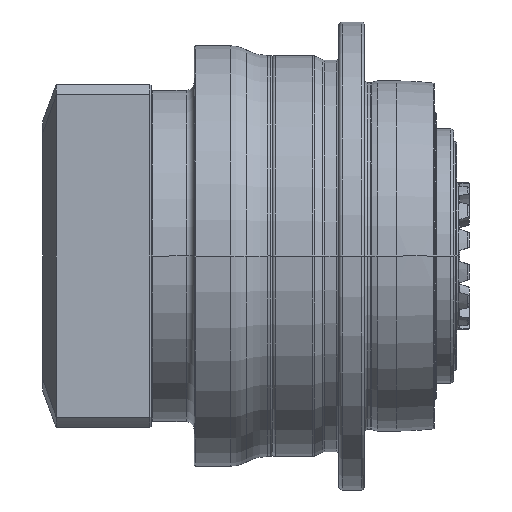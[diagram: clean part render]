
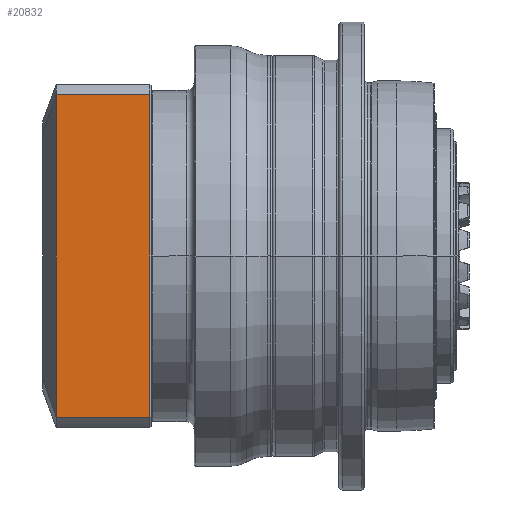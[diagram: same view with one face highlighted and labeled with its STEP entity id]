
A CAD part, front view. The second image highlights one B-rep face of the part: STEP entity #20832.
In plain terms, the highlighted planar face has unit normal (0, -1, 0) as drawn and (0, 1, 0) by its records, which use the part's own axes.
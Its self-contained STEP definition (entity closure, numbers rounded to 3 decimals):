
#19580=CARTESIAN_POINT('',(-50.596,54.,31.8));
#19582=DIRECTION('',(1.,0.,0.));
#19583=VECTOR('',#19582,101.193);
#19584=CARTESIAN_POINT('',(-50.596,54.,
2.5));
#19585=LINE('',#19584,#19583);
#19586=DIRECTION('',(0.,0.,1.));
#19587=VECTOR('',#19586,29.3);
#19588=CARTESIAN_POINT('',(50.596,54.,2.5));
#19589=LINE('',#19588,#19587);
#19590=DIRECTION('',(-1.,0.,0.));
#19591=VECTOR('',#19590,101.193);
#19592=CARTESIAN_POINT('',(50.596,54.,31.8));
#19593=LINE('',#19592,#19591);
#19594=DIRECTION('',(0.,0.,-1.));
#19595=VECTOR('',#19594,29.3);
#19596=CARTESIAN_POINT('',(-50.596,54.,31.8));
#19597=LINE('',#19596,#19595);
#20301=CARTESIAN_POINT('',(50.596,54.,31.8));
#20303=VERTEX_POINT('',#20301);
#20305=VERTEX_POINT('',#19580);
#20396=CARTESIAN_POINT('',(-50.596,54.,
2.5));
#20397=CARTESIAN_POINT('',(50.596,54.,2.5));
#20398=VERTEX_POINT('',#20396);
#20399=VERTEX_POINT('',#20397);
#20818=CARTESIAN_POINT('',(54.,54.,0.));
#20819=DIRECTION('',(0.,1.,0.));
#20820=DIRECTION('',(-1.,0.,0.));
#20821=AXIS2_PLACEMENT_3D('',#20818,#20819,#20820);
#20822=PLANE('',#20821);
#20824=ORIENTED_EDGE('',*,*,#20823,.T.);
#20826=ORIENTED_EDGE('',*,*,#20825,.T.);
#20827=ORIENTED_EDGE('',*,*,#20813,.T.);
#20829=ORIENTED_EDGE('',*,*,#20828,.T.);
#20830=EDGE_LOOP('',(#20824,#20826,#20827,#20829));
#20831=FACE_OUTER_BOUND('',#20830,.F.);
#20832=ADVANCED_FACE('',(#20831),#20822,.T.);
#20813=EDGE_CURVE('',#20303,#20305,#19593,.T.);
#20823=EDGE_CURVE('',#20398,#20399,#19585,.T.);
#20825=EDGE_CURVE('',#20399,#20303,#19589,.T.);
#20828=EDGE_CURVE('',#20305,#20398,#19597,.T.);
